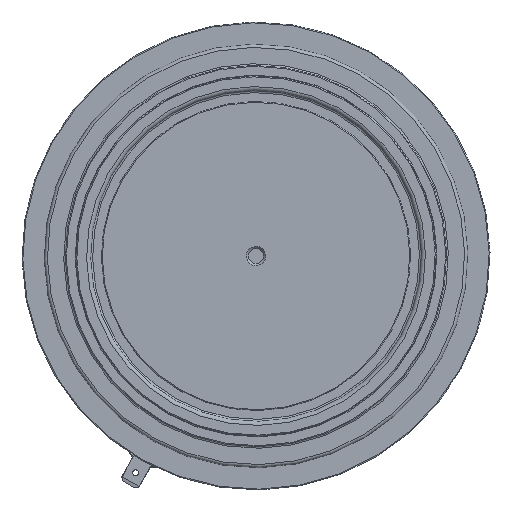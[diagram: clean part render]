
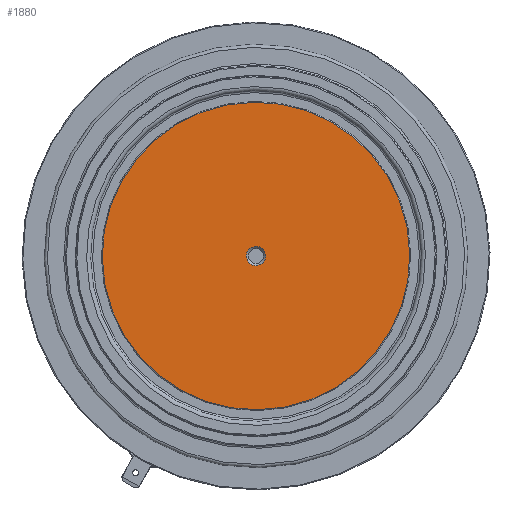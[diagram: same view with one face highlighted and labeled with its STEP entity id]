
A CAD part, front view. The second image highlights one B-rep face of the part: STEP entity #1880.
In plain terms, the highlighted planar face has unit normal (0, -1, 0).
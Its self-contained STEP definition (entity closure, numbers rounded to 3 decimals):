
#57=FACE_BOUND('',#424,.T.);
#108=PLANE('',#2089);
#313=FACE_OUTER_BOUND('',#423,.T.);
#423=EDGE_LOOP('',(#1315,#1316));
#424=EDGE_LOOP('',(#1317));
#577=CIRCLE('',#2083,2.275);
#582=CIRCLE('',#2090,36.3);
#583=CIRCLE('',#2091,36.3);
#776=VERTEX_POINT('',#3274);
#781=VERTEX_POINT('',#3288);
#782=VERTEX_POINT('',#3289);
#993=EDGE_CURVE('',#776,#776,#577,.T.);
#1000=EDGE_CURVE('',#781,#782,#582,.T.);
#1001=EDGE_CURVE('',#782,#781,#583,.T.);
#1315=ORIENTED_EDGE('',*,*,#1000,.T.);
#1316=ORIENTED_EDGE('',*,*,#1001,.T.);
#1317=ORIENTED_EDGE('',*,*,#993,.F.);
#1880=ADVANCED_FACE('',(#313,#57),#108,.T.);
#2083=AXIS2_PLACEMENT_3D('',#3275,#2444,#2445);
#2089=AXIS2_PLACEMENT_3D('',#3287,#2458,#2459);
#2090=AXIS2_PLACEMENT_3D('',#3290,#2460,#2461);
#2091=AXIS2_PLACEMENT_3D('',#3291,#2462,#2463);
#2444=DIRECTION('center_axis',(0.,-1.,0.));
#2445=DIRECTION('ref_axis',(-1.,0.,0.));
#2458=DIRECTION('center_axis',(0.,-1.,0.));
#2459=DIRECTION('ref_axis',(0.,0.,-1.));
#2460=DIRECTION('center_axis',(0.,-1.,0.));
#2461=DIRECTION('ref_axis',(1.,0.,0.));
#2462=DIRECTION('center_axis',(0.,-1.,0.));
#2463=DIRECTION('ref_axis',(1.,0.,0.));
#3274=CARTESIAN_POINT('',(2.275,0.,0.));
#3275=CARTESIAN_POINT('Origin',(0.,0.,0.));
#3287=CARTESIAN_POINT('Origin',(0.,0.,0.));
#3288=CARTESIAN_POINT('',(36.3,0.,0.));
#3289=CARTESIAN_POINT('',(0.,0.,36.3));
#3290=CARTESIAN_POINT('Origin',(0.,0.,0.));
#3291=CARTESIAN_POINT('Origin',(0.,0.,0.));
